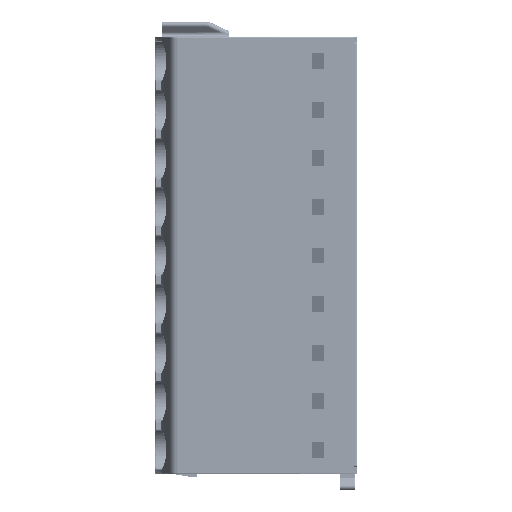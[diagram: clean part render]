
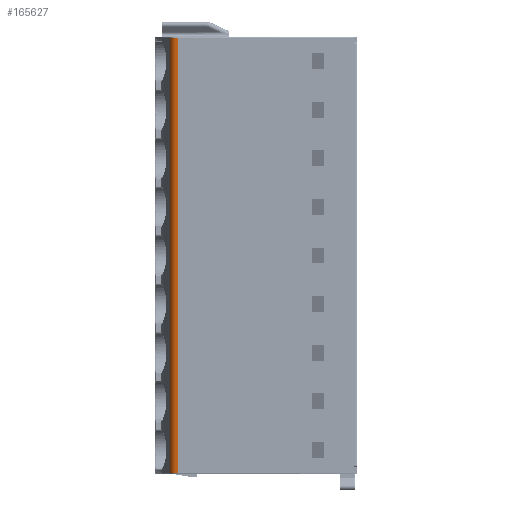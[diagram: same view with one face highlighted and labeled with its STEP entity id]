
A CAD part, left-side view. The second image highlights one B-rep face of the part: STEP entity #165627.
In plain terms, the highlighted cylindrical face has radius 1 mm (diameter 2 mm), a partial arc.
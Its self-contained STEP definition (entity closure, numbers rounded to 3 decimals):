
#31654=CARTESIAN_POINT('',(-1.3,16.736,21.8));
#31655=DIRECTION('',(0.,0.,-1.));
#31656=DIRECTION('',(-1.,0.005,0.));
#31657=AXIS2_PLACEMENT_3D('',#31654,#31655,#31656);
#31792=DIRECTION('',(0.,0.,1.));
#31793=VECTOR('',#31792,5.);
#31794=CARTESIAN_POINT('',(-2.3,16.741,
-4.));
#31795=LINE('',#31794,#31793);
#32684=DIRECTION('',(0.,0.,1.));
#32685=VECTOR('',#32684,46.6);
#32686=CARTESIAN_POINT('',(-1.775,17.616,-24.8));
#32687=LINE('',#32686,#32685);
#32688=DIRECTION('',(0.,0.,-1.));
#32689=VECTOR('',#32688,5.);
#32690=CARTESIAN_POINT('',(-2.3,16.741,
21.8));
#32691=LINE('',#32690,#32689);
#32692=DIRECTION('',(0.,0.,-1.));
#32693=VECTOR('',#32692,0.2);
#32694=CARTESIAN_POINT('',(-2.3,16.741,
16.8));
#32695=LINE('',#32694,#32693);
#32696=DIRECTION('',(0.,0.,-1.));
#32697=VECTOR('',#32696,5.);
#32698=CARTESIAN_POINT('',(-2.3,16.741,
16.6));
#32699=LINE('',#32698,#32697);
#32700=DIRECTION('',(0.,0.,-1.));
#32701=VECTOR('',#32700,0.2);
#32702=CARTESIAN_POINT('',(-2.3,16.741,
11.6));
#32703=LINE('',#32702,#32701);
#32704=DIRECTION('',(0.,0.,-1.));
#32705=VECTOR('',#32704,5.);
#32706=CARTESIAN_POINT('',(-2.3,16.741,
11.4));
#32707=LINE('',#32706,#32705);
#32708=DIRECTION('',(0.,0.,-1.));
#32709=VECTOR('',#32708,0.2);
#32710=CARTESIAN_POINT('',(-2.3,16.741,
6.4));
#32711=LINE('',#32710,#32709);
#32712=DIRECTION('',(0.,0.,-1.));
#32713=VECTOR('',#32712,5.);
#32714=CARTESIAN_POINT('',(-2.3,16.741,
6.2));
#32715=LINE('',#32714,#32713);
#32716=DIRECTION('',(0.,0.,-1.));
#32717=VECTOR('',#32716,0.2);
#32718=CARTESIAN_POINT('',(-2.3,16.741,
1.2));
#32719=LINE('',#32718,#32717);
#32720=DIRECTION('',(0.,0.,-1.));
#32721=VECTOR('',#32720,0.2);
#32722=CARTESIAN_POINT('',(-2.3,16.741,
-4.));
#32723=LINE('',#32722,#32721);
#32724=DIRECTION('',(0.,0.,-1.));
#32725=VECTOR('',#32724,5.);
#32726=CARTESIAN_POINT('',(-2.3,16.741,
-4.2));
#32727=LINE('',#32726,#32725);
#32728=DIRECTION('',(0.,0.,-1.));
#32729=VECTOR('',#32728,0.2);
#32730=CARTESIAN_POINT('',(-2.3,16.741,
-9.2));
#32731=LINE('',#32730,#32729);
#32732=DIRECTION('',(0.,0.,-1.));
#32733=VECTOR('',#32732,5.);
#32734=CARTESIAN_POINT('',(-2.3,16.741,
-9.4));
#32735=LINE('',#32734,#32733);
#32736=DIRECTION('',(0.,0.,-1.));
#32737=VECTOR('',#32736,0.2);
#32738=CARTESIAN_POINT('',(-2.3,16.741,
-14.4));
#32739=LINE('',#32738,#32737);
#32740=DIRECTION('',(0.,0.,-1.));
#32741=VECTOR('',#32740,5.);
#32742=CARTESIAN_POINT('',(-2.3,16.741,
-14.6));
#32743=LINE('',#32742,#32741);
#32744=DIRECTION('',(0.,0.,-1.));
#32745=VECTOR('',#32744,0.2);
#32746=CARTESIAN_POINT('',(-2.3,16.741,
-19.6));
#32747=LINE('',#32746,#32745);
#32748=DIRECTION('',(0.,0.,-1.));
#32749=VECTOR('',#32748,5.);
#32750=CARTESIAN_POINT('',(-2.3,16.741,
-19.8));
#32751=LINE('',#32750,#32749);
#32880=CARTESIAN_POINT('',(-1.3,16.736,-24.8));
#32881=DIRECTION('',(0.,0.,1.));
#32882=DIRECTION('',(-0.475,0.88,0.));
#32883=AXIS2_PLACEMENT_3D('',#32880,#32881,#32882);
#99431=CARTESIAN_POINT('',(-1.775,17.616,-24.8));
#99432=VERTEX_POINT('',#99431);
#102271=CARTESIAN_POINT('',(-2.3,16.741,-24.8));
#102272=VERTEX_POINT('',#102271);
#102273=CARTESIAN_POINT('',(-2.3,16.741,
-19.6));
#102274=CARTESIAN_POINT('',(-2.3,16.741,
-19.8));
#102275=VERTEX_POINT('',#102273);
#102276=VERTEX_POINT('',#102274);
#102277=CARTESIAN_POINT('',(-2.3,16.741,
-4.));
#102278=CARTESIAN_POINT('',(-2.3,16.741,
-4.2));
#102279=VERTEX_POINT('',#102277);
#102280=VERTEX_POINT('',#102278);
#102281=CARTESIAN_POINT('',(-2.3,16.741,
-9.2));
#102282=VERTEX_POINT('',#102281);
#102283=CARTESIAN_POINT('',(-2.3,16.741,
-9.4));
#102284=VERTEX_POINT('',#102283);
#102285=CARTESIAN_POINT('',(-2.3,16.741,
-14.4));
#102286=VERTEX_POINT('',#102285);
#102287=CARTESIAN_POINT('',(-2.3,16.741,
-14.6));
#102288=VERTEX_POINT('',#102287);
#112387=CARTESIAN_POINT('',(-1.775,17.616,21.8));
#112388=VERTEX_POINT('',#112387);
#114722=CARTESIAN_POINT('',(-2.3,16.741,
1.2));
#114723=CARTESIAN_POINT('',(-2.3,16.741,
1.));
#114724=VERTEX_POINT('',#114722);
#114725=VERTEX_POINT('',#114723);
#114726=CARTESIAN_POINT('',(-2.3,16.741,21.8));
#114727=VERTEX_POINT('',#114726);
#114728=CARTESIAN_POINT('',(-2.3,16.741,
16.8));
#114729=VERTEX_POINT('',#114728);
#114730=CARTESIAN_POINT('',(-2.3,16.741,
16.6));
#114731=VERTEX_POINT('',#114730);
#114732=CARTESIAN_POINT('',(-2.3,16.741,
11.6));
#114733=VERTEX_POINT('',#114732);
#114734=CARTESIAN_POINT('',(-2.3,16.741,
11.4));
#114735=VERTEX_POINT('',#114734);
#114736=CARTESIAN_POINT('',(-2.3,16.741,
6.4));
#114737=VERTEX_POINT('',#114736);
#114738=CARTESIAN_POINT('',(-2.3,16.741,
6.2));
#114739=VERTEX_POINT('',#114738);
#165591=CARTESIAN_POINT('',(-1.3,16.736,-14.7));
#165592=DIRECTION('',(0.,0.,1.));
#165593=DIRECTION('',(-1.,0.,0.));
#165594=AXIS2_PLACEMENT_3D('',#165591,#165592,#165593);
#165595=CYLINDRICAL_SURFACE('',#165594,1.);
#165596=ORIENTED_EDGE('',*,*,#131198,.T.);
#165597=ORIENTED_EDGE('',*,*,#164105,.F.);
#165598=ORIENTED_EDGE('',*,*,#164228,.T.);
#165600=ORIENTED_EDGE('',*,*,#165599,.T.);
#165601=ORIENTED_EDGE('',*,*,#164224,.T.);
#165603=ORIENTED_EDGE('',*,*,#165602,.T.);
#165604=ORIENTED_EDGE('',*,*,#164220,.T.);
#165606=ORIENTED_EDGE('',*,*,#165605,.T.);
#165607=ORIENTED_EDGE('',*,*,#164216,.T.);
#165609=ORIENTED_EDGE('',*,*,#165608,.T.);
#165610=ORIENTED_EDGE('',*,*,#164212,.F.);
#165612=ORIENTED_EDGE('',*,*,#165611,.T.);
#165613=ORIENTED_EDGE('',*,*,#164270,.T.);
#165615=ORIENTED_EDGE('',*,*,#165614,.T.);
#165616=ORIENTED_EDGE('',*,*,#164266,.T.);
#165618=ORIENTED_EDGE('',*,*,#165617,.T.);
#165619=ORIENTED_EDGE('',*,*,#164262,.T.);
#165621=ORIENTED_EDGE('',*,*,#165620,.T.);
#165622=ORIENTED_EDGE('',*,*,#164258,.T.);
#165624=ORIENTED_EDGE('',*,*,#165623,.F.);
#165625=EDGE_LOOP('',(#165596,#165597,#165598,#165600,#165601,#165603,#165604,
#165606,#165607,#165609,#165610,#165612,#165613,#165615,#165616,#165618,#165619,
#165621,#165622,#165624));
#165626=FACE_OUTER_BOUND('',#165625,.F.);
#165627=ADVANCED_FACE('',(#165626),#165595,.T.);
#31658=CIRCLE('',#31657,1.);
#32884=CIRCLE('',#32883,1.);
#131198=EDGE_CURVE('',#99432,#112388,#32687,.T.);
#164105=EDGE_CURVE('',#114727,#112388,#31658,.T.);
#164212=EDGE_CURVE('',#102279,#114725,#31795,.T.);
#164216=EDGE_CURVE('',#114739,#114724,#32715,.T.);
#164220=EDGE_CURVE('',#114735,#114737,#32707,.T.);
#164224=EDGE_CURVE('',#114731,#114733,#32699,.T.);
#164228=EDGE_CURVE('',#114727,#114729,#32691,.T.);
#164258=EDGE_CURVE('',#102276,#102272,#32751,.T.);
#164262=EDGE_CURVE('',#102288,#102275,#32743,.T.);
#164266=EDGE_CURVE('',#102284,#102286,#32735,.T.);
#164270=EDGE_CURVE('',#102280,#102282,#32727,.T.);
#165599=EDGE_CURVE('',#114729,#114731,#32695,.T.);
#165602=EDGE_CURVE('',#114733,#114735,#32703,.T.);
#165605=EDGE_CURVE('',#114737,#114739,#32711,.T.);
#165608=EDGE_CURVE('',#114724,#114725,#32719,.T.);
#165611=EDGE_CURVE('',#102279,#102280,#32723,.T.);
#165614=EDGE_CURVE('',#102282,#102284,#32731,.T.);
#165617=EDGE_CURVE('',#102286,#102288,#32739,.T.);
#165620=EDGE_CURVE('',#102275,#102276,#32747,.T.);
#165623=EDGE_CURVE('',#99432,#102272,#32884,.T.);
